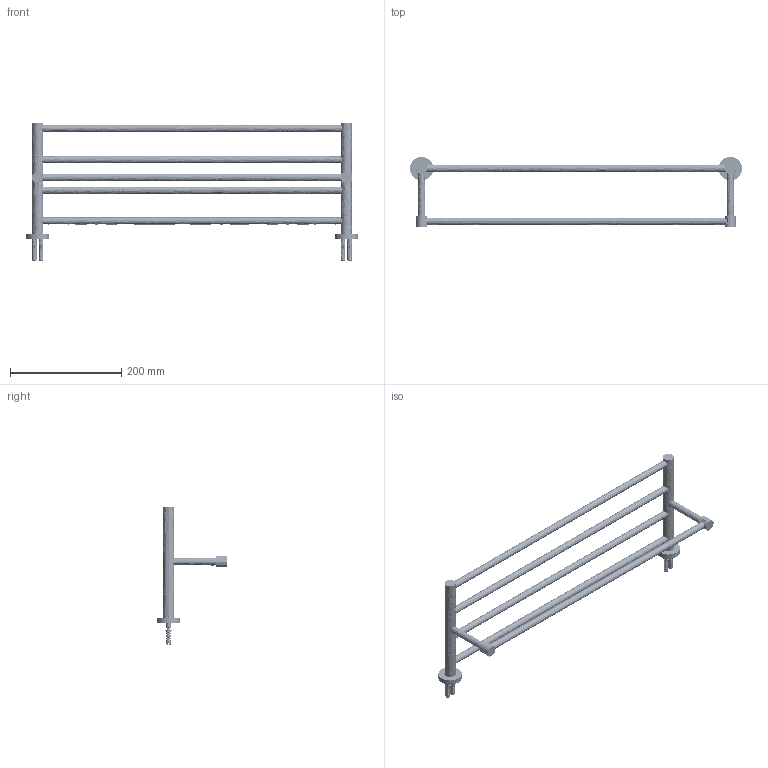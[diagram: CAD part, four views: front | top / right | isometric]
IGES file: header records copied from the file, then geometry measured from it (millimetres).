
Global section: file name: ef7d17a2-75fa-49bb-948f-6f008900509d.zip; native system: unknown; preprocessor: unknown; author: unknown; organization: unknown; date: 20200108.122103; units: millimetre
Bounding box: 596 x 125.98 x 248 mm (x, y, z)
Volume: 129533 mm3; surface area: 328116.2 mm2
Topology: 37 solids, 37 shells, 1174 faces, 3136 edges, 2062 vertices
Faces by surface type: bspline 1174
